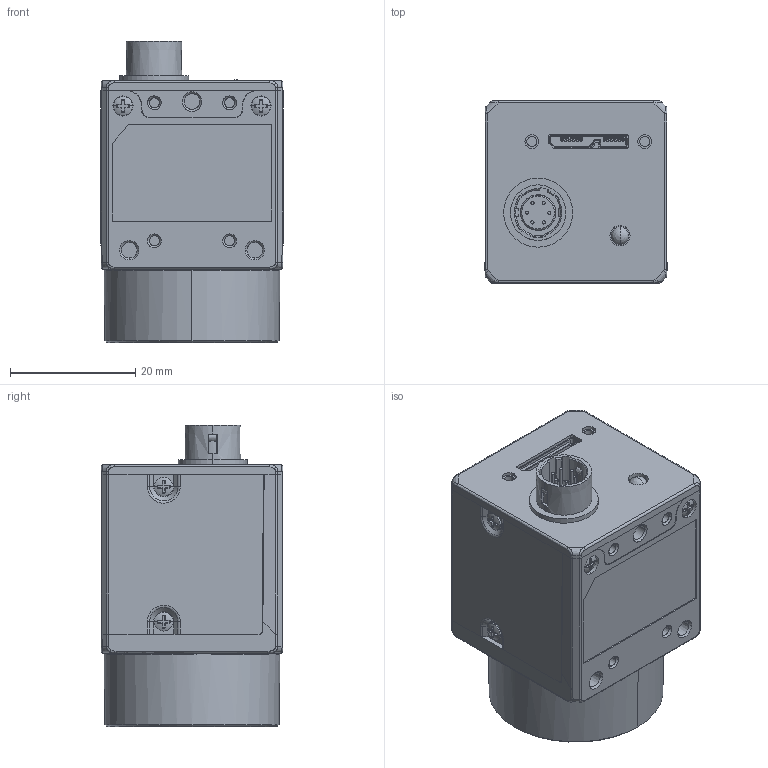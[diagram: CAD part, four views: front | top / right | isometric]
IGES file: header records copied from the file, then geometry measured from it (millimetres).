
Start section:  PTC IGES file: MV-CE013-80UM.igs
Global section: file name: MV-CE013-80UM.igs; native system: Creo Parametric by PTC Inc.; preprocessor: 2017260; author: wangyijun6; organization: Unknown; date: 20200311.141348; units: millimetre
Bounding box: 29.03 x 29 x 48.03 mm (x, y, z)
Volume: 26509.1 mm3; surface area: 10941.7 mm2
Topology: 1 solids, 13 shells, 1415 faces, 3738 edges, 2383 vertices
Faces by surface type: bspline 745, revolution 670
